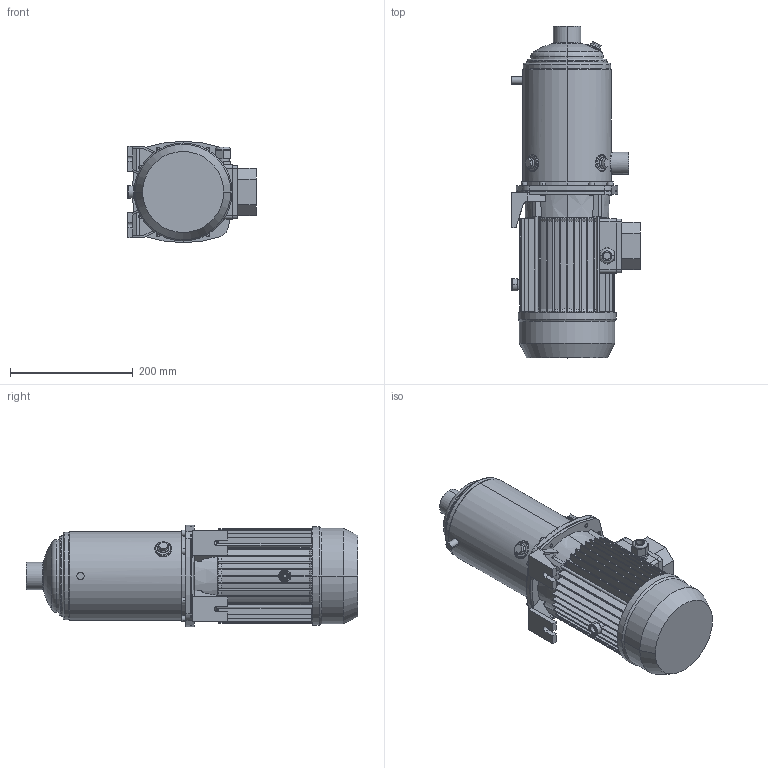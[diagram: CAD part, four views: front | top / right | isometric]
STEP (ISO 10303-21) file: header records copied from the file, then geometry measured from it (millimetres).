
FILE_DESCRIPTION((''),'2;1');
FILE_NAME('MATRIX_5-8T_2_2_IE3_ASM','2018-06-01T',('rosa'),('"Ebara Pumps Europe +39.444.706811"'),'PRO/ENGINEER BY PARAMETRIC TECHNOLOGY CORPORATION, 2012130','PRO/ENGINEER BY PARAMETRIC TECHNOLOGY CORPORATION, 2012130','');
FILE_SCHEMA(('AUTOMOTIVE_DESIGN { 1 0 10303 214 1 1 1 1 }'));
Length unit declared in the file: millimetre
Products named in the file (5): CORPO_POMPA_MATRIX_5-8; SUPPORTO_MATRIX_MEC_80; MEC_80X130_IE3; 72229; MATRIX_5-8T_2_2_IE3_ASM
Assembly tree (4 placements, depth 2):
  MATRIX_5-8T_2_2_IE3_ASM
    CORPO_POMPA_MATRIX_5-8
    SUPPORTO_MATRIX_MEC_80
    MEC_80X130_IE3
    72229
Bounding box: 209 x 539.8 x 165 mm (x, y, z)
Volume: 6538223.2 mm3; surface area: 611427.1 mm2
Topology: 4 solids, 4 shells, 721 faces, 1735 edges, 1071 vertices
Faces by surface type: plane 378, cylinder 188, cone 102, torus 37, bspline 14, sphere 2
Entity records: 28455 total; most frequent: CARTESIAN_POINT 5659, DIRECTION 3670, ORIENTED_EDGE 3470, EDGE_CURVE 1735, PRESENTATION_STYLE_ASSIGNMENT 1688, STYLED_ITEM 1688, CURVE_STYLE 1685, AXIS2_PLACEMENT_3D 1405
